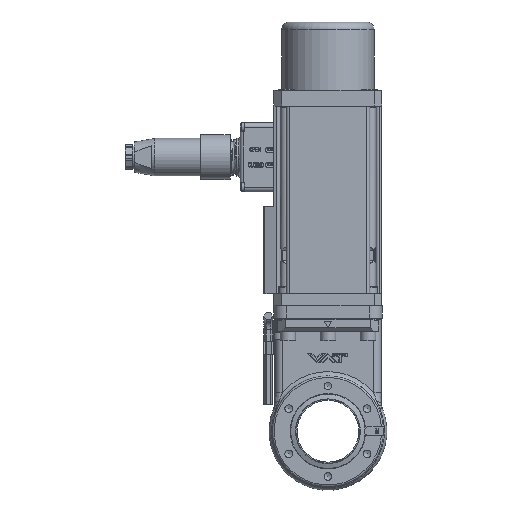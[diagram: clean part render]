
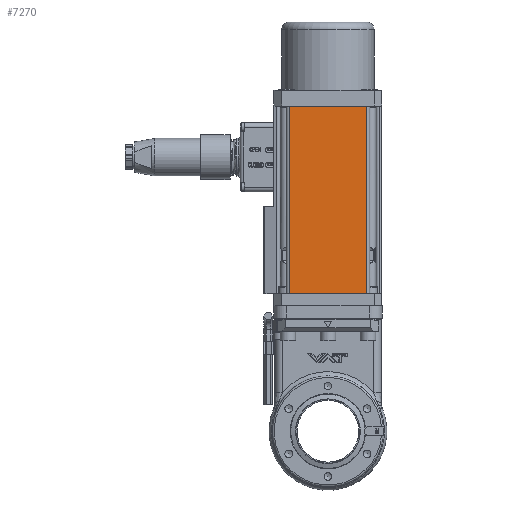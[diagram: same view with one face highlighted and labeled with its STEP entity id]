
A CAD part, front view. The second image highlights one B-rep face of the part: STEP entity #7270.
In plain terms, the highlighted planar face has unit normal (0, -1, 0).
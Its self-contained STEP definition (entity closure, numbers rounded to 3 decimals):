
#5318=FACE_OUTER_BOUND('',#10535,.T.);
#6413=PLANE('',#28009);
#7270=ADVANCED_FACE('',(#5318),#6413,.F.);
#10535=EDGE_LOOP('',(#16245,#16246,#16247,#16248));
#12238=LINE('',#36731,#14046);
#12261=LINE('',#36816,#14069);
#12266=LINE('',#36839,#14074);
#12267=LINE('',#36841,#14075);
#14046=VECTOR('',#30196,1.);
#14069=VECTOR('',#30285,1.);
#14074=VECTOR('',#30310,1.);
#14075=VECTOR('',#30313,1.);
#16245=ORIENTED_EDGE('',*,*,#24828,.F.);
#16246=ORIENTED_EDGE('',*,*,#24840,.F.);
#16247=ORIENTED_EDGE('',*,*,#24783,.T.);
#16248=ORIENTED_EDGE('',*,*,#24841,.T.);
#22519=VERTEX_POINT('',#36730);
#22520=VERTEX_POINT('',#36732);
#22548=VERTEX_POINT('',#36815);
#22549=VERTEX_POINT('',#36817);
#24783=EDGE_CURVE('',#22520,#22519,#12238,.T.);
#24828=EDGE_CURVE('',#22548,#22549,#12261,.T.);
#24840=EDGE_CURVE('',#22520,#22548,#12266,.T.);
#24841=EDGE_CURVE('',#22519,#22549,#12267,.T.);
#28009=AXIS2_PLACEMENT_3D('',#36842,#30314,#30315);
#30196=DIRECTION('',(1.,0.,0.));
#30285=DIRECTION('',(1.,0.,0.));
#30310=DIRECTION('',(0.,0.,1.));
#30313=DIRECTION('',(0.,0.,1.));
#30314=DIRECTION('',(0.,1.,0.));
#30315=DIRECTION('',(0.,0.,-1.));
#36730=CARTESIAN_POINT('',(25.079,-35.,-121.65));
#36731=CARTESIAN_POINT('',(-25.079,-35.,-121.65));
#36732=CARTESIAN_POINT('',(-25.079,-35.,-121.65));
#36815=CARTESIAN_POINT('',(-25.079,-35.,0.));
#36816=CARTESIAN_POINT('',(-25.079,-35.,0.));
#36817=CARTESIAN_POINT('',(25.079,-35.,0.));
#36839=CARTESIAN_POINT('',(-25.079,-35.,-121.65));
#36841=CARTESIAN_POINT('',(25.079,-35.,-121.65));
#36842=CARTESIAN_POINT('',(-25.079,-35.,-121.65));
